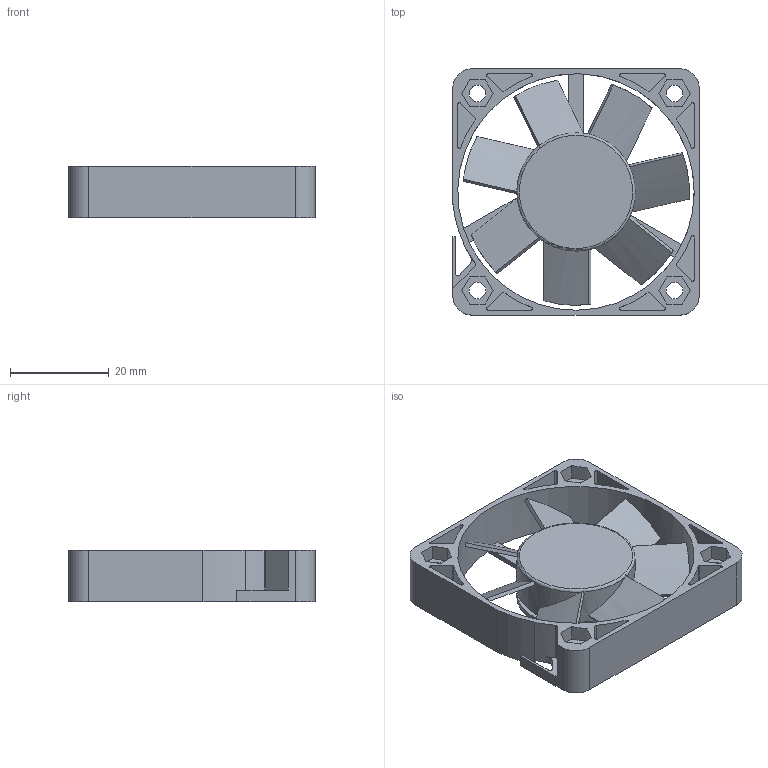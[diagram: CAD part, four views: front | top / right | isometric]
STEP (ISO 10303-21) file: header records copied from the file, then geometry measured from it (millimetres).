
FILE_DESCRIPTION(/* description */ (''),/* implementation_level */ '2;1');
FILE_NAME(/* name */ 'C5010_Rev.2.stp',/* time_stamp */ '2023-08-29T14:19:32+02:00',/* author */ (''),/* organization */ (''),/* preprocessor_version */ 'ST-DEVELOPER v16.7',/* originating_system */ 'SIEMENS PLM Software NX 1946',/* authorisation */ '');
FILE_SCHEMA (('AUTOMOTIVE_DESIGN { 1 0 10303 214 3 1 1 1 }'));
Length unit declared in the file: millimetre
Products named in the file (1): 020159_2-C5010 _C5010_
Bounding box: 50 x 50 x 10.5 mm (x, y, z)
Volume: 10409.7 mm3; surface area: 11330.8 mm2
Topology: 2 solids, 2 shells, 164 faces, 454 edges, 303 vertices
Faces by surface type: plane 101, cylinder 62, torus 1
Full cylindrical faces by diameter (mm): 3.4 x4, 22.4 x1, 24 x1, 48 x1
Entity records: 5290 total; most frequent: CARTESIAN_POINT 1022, DIRECTION 901, ORIENTED_EDGE 874, EDGE_CURVE 437, AXIS2_PLACEMENT_3D 328, VERTEX_POINT 295, LINE 245, VECTOR 245
